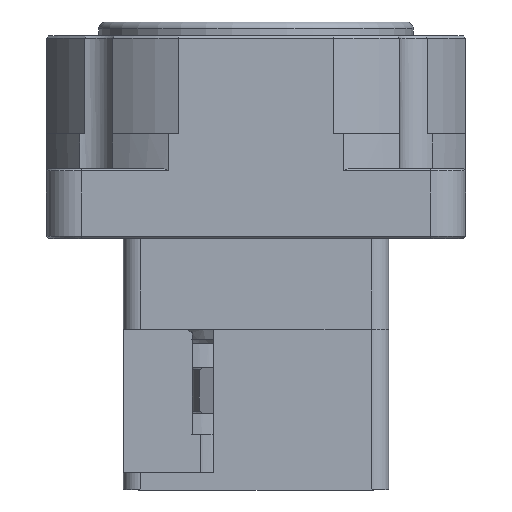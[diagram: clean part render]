
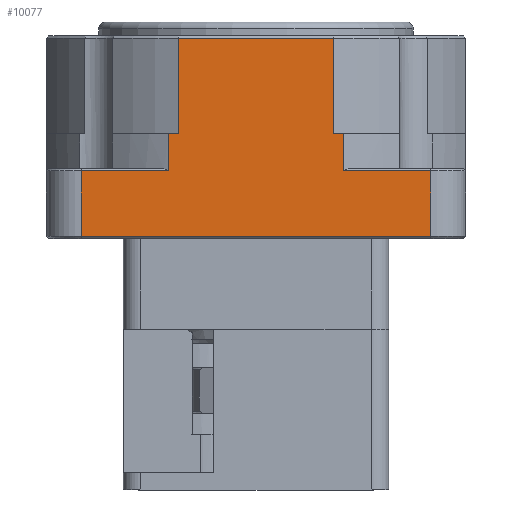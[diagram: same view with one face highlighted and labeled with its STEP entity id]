
A CAD part, left-side view. The second image highlights one B-rep face of the part: STEP entity #10077.
In plain terms, the highlighted planar face has unit normal (-1, 0, 0).
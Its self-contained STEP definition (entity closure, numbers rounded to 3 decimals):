
#9773=CARTESIAN_POINT('',(-30.0,-11.136,28.7));
#9774=VERTEX_POINT('',#9773);
#9798=CARTESIAN_POINT('',(-30.0,11.136,28.7));
#9799=VERTEX_POINT('',#9798);
#9800=CARTESIAN_POINT('',(-30.0,11.136,28.7));
#9801=DIRECTION('',(0.0,-1.0,0.0));
#9802=VECTOR('',#9801,22.271);
#9803=LINE('',#9800,#9802);
#9804=EDGE_CURVE('',#9799,#9774,#9803,.T.);
#9983=CARTESIAN_POINT('',(-30.0,30.,0.0));
#9984=DIRECTION('',(-1.0,0.0,0.0));
#9985=DIRECTION('',(0.0,-1.0,0.0));
#9986=AXIS2_PLACEMENT_3D('',#9983,#9984,#9985);
#9987=PLANE('',#9986);
#9988=ORIENTED_EDGE('',*,*,#9804,.F.);
#9989=CARTESIAN_POINT('',(-30.0,11.136,15.0));
#9990=VERTEX_POINT('',#9989);
#9991=CARTESIAN_POINT('',(-30.0,11.136,15.0));
#9992=DIRECTION('',(0.0,0.0,1.0));
#9993=VECTOR('',#9992,13.7);
#9994=LINE('',#9991,#9993);
#9995=EDGE_CURVE('',#9990,#9799,#9994,.T.);
#9996=ORIENTED_EDGE('',*,*,#9995,.F.);
#9997=CARTESIAN_POINT('',(-30.0,12.5,15.0));
#9998=VERTEX_POINT('',#9997);
#9999=CARTESIAN_POINT('',(-30.,12.5,15.0));
#10000=DIRECTION('',(0.0,-1.0,0.0));
#10001=VECTOR('',#10000,1.364);
#10002=LINE('',#9999,#10001);
#10003=EDGE_CURVE('',#9998,#9990,#10002,.T.);
#10004=ORIENTED_EDGE('',*,*,#10003,.F.);
#10005=CARTESIAN_POINT('',(-30.0,12.5,9.7));
#10006=VERTEX_POINT('',#10005);
#10007=CARTESIAN_POINT('',(-30.0,12.5,9.7));
#10008=DIRECTION('',(0.0,0.0,1.0));
#10009=VECTOR('',#10008,5.3);
#10010=LINE('',#10007,#10009);
#10011=EDGE_CURVE('',#10006,#9998,#10010,.T.);
#10012=ORIENTED_EDGE('',*,*,#10011,.F.);
#10013=CARTESIAN_POINT('',(-30.0,25.,9.7));
#10014=VERTEX_POINT('',#10013);
#10015=CARTESIAN_POINT('',(-30.0,25.,9.7));
#10016=DIRECTION('',(0.0,-1.0,0.0));
#10017=VECTOR('',#10016,12.5);
#10018=LINE('',#10015,#10017);
#10019=EDGE_CURVE('',#10014,#10006,#10018,.T.);
#10020=ORIENTED_EDGE('',*,*,#10019,.F.);
#10021=CARTESIAN_POINT('',(-30.0,25.,0.3));
#10022=VERTEX_POINT('',#10021);
#10023=CARTESIAN_POINT('',(-30.0,25.,0.3));
#10024=DIRECTION('',(0.0,0.0,1.0));
#10025=VECTOR('',#10024,9.4);
#10026=LINE('',#10023,#10025);
#10027=EDGE_CURVE('',#10022,#10014,#10026,.T.);
#10028=ORIENTED_EDGE('',*,*,#10027,.F.);
#10029=CARTESIAN_POINT('',(-30.,-25.,0.3));
#10030=VERTEX_POINT('',#10029);
#10031=CARTESIAN_POINT('',(-30.,-25.,0.3));
#10032=DIRECTION('',(0.0,1.0,0.0));
#10033=VECTOR('',#10032,50.0);
#10034=LINE('',#10031,#10033);
#10035=EDGE_CURVE('',#10030,#10022,#10034,.T.);
#10036=ORIENTED_EDGE('',*,*,#10035,.F.);
#10037=CARTESIAN_POINT('',(-30.,-25.,9.7));
#10038=VERTEX_POINT('',#10037);
#10039=CARTESIAN_POINT('',(-30.,-25.,9.7));
#10040=DIRECTION('',(0.0,0.0,-1.0));
#10041=VECTOR('',#10040,9.4);
#10042=LINE('',#10039,#10041);
#10043=EDGE_CURVE('',#10038,#10030,#10042,.T.);
#10044=ORIENTED_EDGE('',*,*,#10043,.F.);
#10045=CARTESIAN_POINT('',(-30.,-12.5,9.7));
#10046=VERTEX_POINT('',#10045);
#10047=CARTESIAN_POINT('',(-30.,-12.5,9.7));
#10048=DIRECTION('',(0.0,-1.0,0.0));
#10049=VECTOR('',#10048,12.5);
#10050=LINE('',#10047,#10049);
#10051=EDGE_CURVE('',#10046,#10038,#10050,.T.);
#10052=ORIENTED_EDGE('',*,*,#10051,.F.);
#10053=CARTESIAN_POINT('',(-30.0,-12.5,15.0));
#10054=VERTEX_POINT('',#10053);
#10055=CARTESIAN_POINT('',(-30.0,-12.5,15.0));
#10056=DIRECTION('',(0.0,0.0,-1.0));
#10057=VECTOR('',#10056,5.3);
#10058=LINE('',#10055,#10057);
#10059=EDGE_CURVE('',#10054,#10046,#10058,.T.);
#10060=ORIENTED_EDGE('',*,*,#10059,.F.);
#10061=CARTESIAN_POINT('',(-30.0,-11.136,15.0));
#10062=VERTEX_POINT('',#10061);
#10063=CARTESIAN_POINT('',(-30.,-11.136,15.0));
#10064=DIRECTION('',(0.0,-1.0,0.0));
#10065=VECTOR('',#10064,1.364);
#10066=LINE('',#10063,#10065);
#10067=EDGE_CURVE('',#10062,#10054,#10066,.T.);
#10068=ORIENTED_EDGE('',*,*,#10067,.F.);
#10069=CARTESIAN_POINT('',(-30.0,-11.136,15.0));
#10070=DIRECTION('',(0.0,0.0,1.0));
#10071=VECTOR('',#10070,13.7);
#10072=LINE('',#10069,#10071);
#10073=EDGE_CURVE('',#10062,#9774,#10072,.T.);
#10074=ORIENTED_EDGE('',*,*,#10073,.T.);
#10075=EDGE_LOOP('',(#9988,#9996,#10004,#10012,#10020,#10028,#10036,#10044,#10052,#10060,#10068,#10074));
#10076=FACE_OUTER_BOUND('',#10075,.T.);
#10077=ADVANCED_FACE('',(#10076),#9987,.T.);
